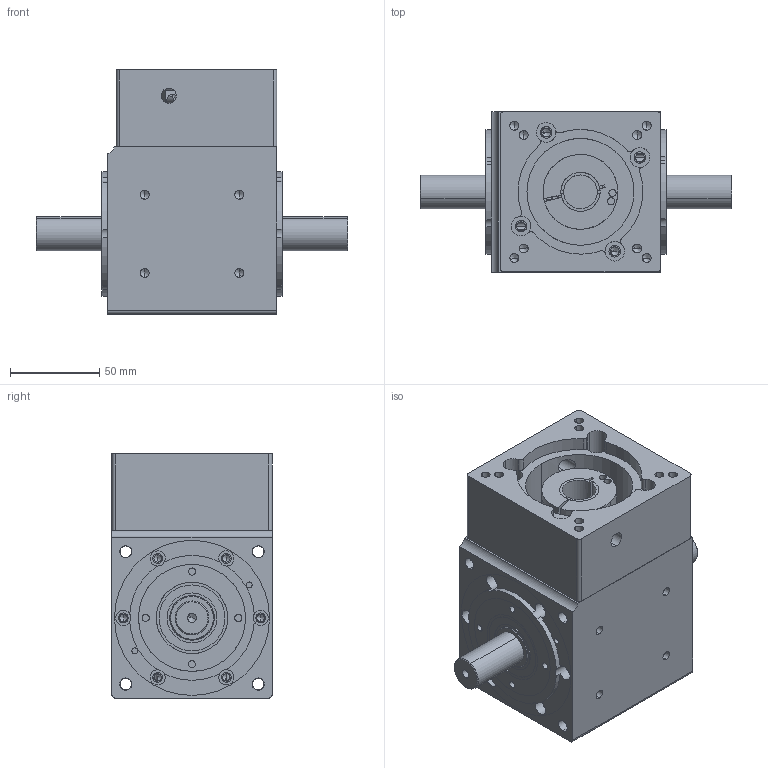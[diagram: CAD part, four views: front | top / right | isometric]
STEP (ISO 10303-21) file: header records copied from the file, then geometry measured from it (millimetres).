
FILE_DESCRIPTION (( 'STEP AP203' ), '1' );
FILE_NAME ('PVFH090-L1.STEP', '2021-08-23T04:01:19', ( 'Windows User' ), ( 'P R C' ), 'SwSTEP 2.0', 'SolidWorks 2016', '' );
FILE_SCHEMA (( 'CONFIG_CONTROL_DESIGN' ));
Length unit declared in the file: millimetre
Products named in the file (11): PVFH090-L1; deep groove ball bearings gb_Rolling bearings 6005 GB 276-94; tapered roller bearings gb_Rolling bearings 32005 GB 297-94; PVFH090綴楊擘; PVFH090標杶; PVFH090蹟譫; PVFH090输入轴; ZK090怀堤粣; PVFHo9o眊极; 25-40-7蚐猾; PVFH090͹̨
Assembly tree (14 placements, depth 2):
  PVFH090-L1
    PVFHo9o眊极
    PVFH090͹̨  x2
    deep groove ball bearings gb_Rolling bearings 6005 GB 276-94  x2
    tapered roller bearings gb_Rolling bearings 32005 GB 297-94
    PVFH090綴楊擘
    PVFH090標杶
    PVFH090蹟譫  x2
    PVFH090输入轴
    ZK090怀堤粣
    25-40-7蚐猾  x2
Bounding box: 175 x 90 x 137 mm (x, y, z)
Volume: 849425.3 mm3; surface area: 244361.9 mm2
Topology: 14 solids, 14 shells, 1532 faces, 4555 edges, 2950 vertices
Faces by surface type: plane 530, bspline 451, cylinder 383, cone 168
Entity records: 56066 total; most frequent: CARTESIAN_POINT 22484, ORIENTED_EDGE 7588, DIRECTION 5681, EDGE_CURVE 3794, VERTEX_POINT 2495, AXIS2_PLACEMENT_3D 2056, LINE 1569, VECTOR 1569
